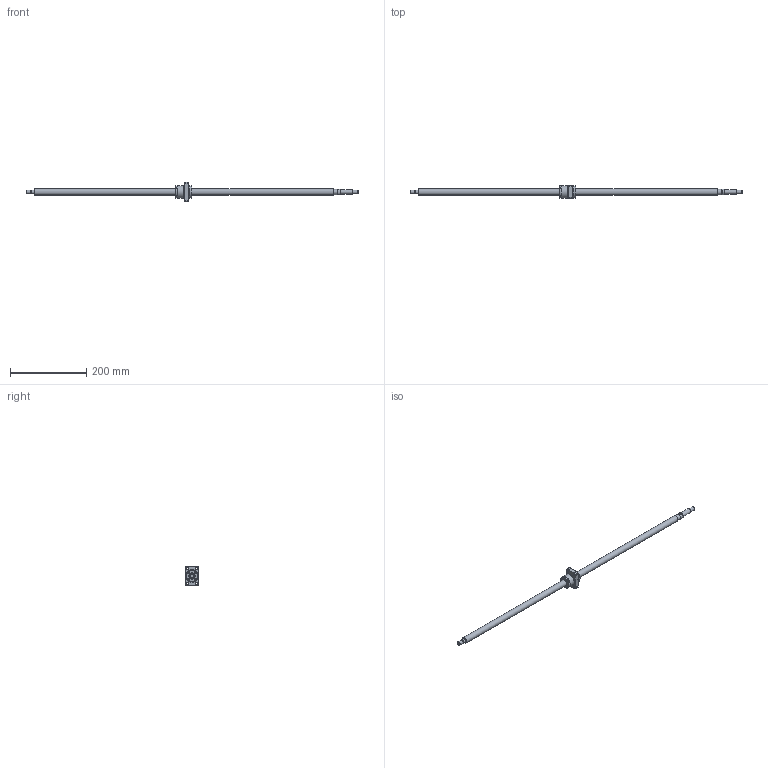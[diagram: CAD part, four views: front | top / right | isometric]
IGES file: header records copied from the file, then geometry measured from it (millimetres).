
Start section: Data from Parasolid IGES Translator 26.0.171, Copyright(c) 2006 Siemens PLM Software. All Rights Reserved.
Global section: file name: BNK1616-3.6G0+871LC5Y(4130).igs; native system: By Siemens PLM Incorporated; preprocessor: XPlus GENERIC/IGES 26.0.171; author: Noname; organization: Noname; date: 20240709.093111; units: millimetre
Bounding box: 871 x 34 x 50 mm (x, y, z)
Surface area: 54396.8 mm2 (no closed solid volume)
Topology: 0 solids, 0 shells, 139 faces, 653 edges, 597 vertices
Faces by surface type: extrusion 75, revolution 64
